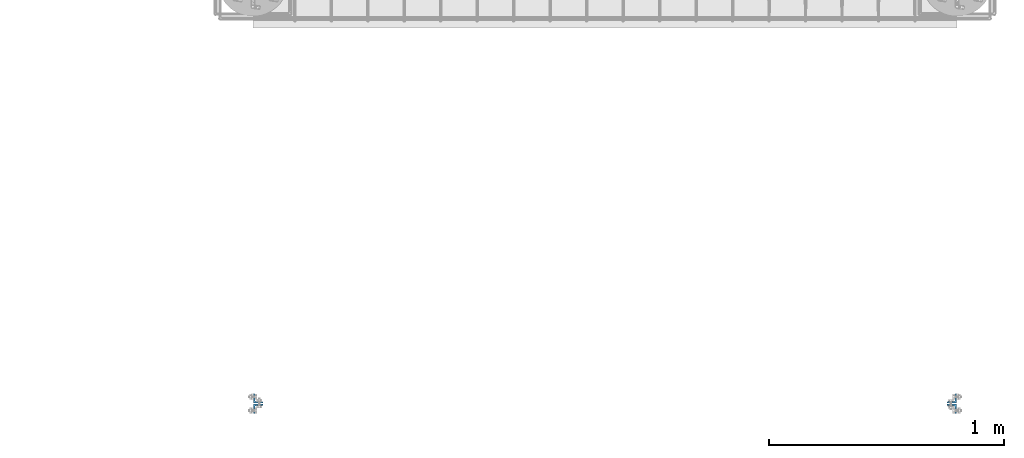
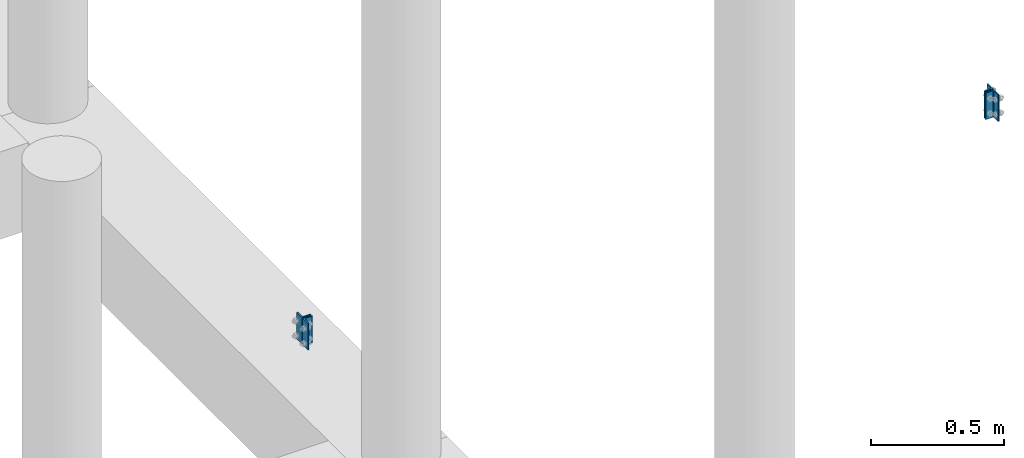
# One storey, part 2 of 20: 4 plates.
"""IFC4 building model written with IfcOpenShell, lengths in metres."""

from ifc_helpers import new_model, si_unit, frame, origin_with_axes, place, context, project, spatial, polyline, outline, extrude, type_object, element, save


model = new_model("IFC4")

# Units and contexts
model_context = context("Model", 3, precision=1e-05, world=origin_with_axes())
ifc_project = project(units=[si_unit("LENGTHUNIT", "METRE"), si_unit("AREAUNIT", "SQUARE_METRE"), si_unit("VOLUMEUNIT", "CUBIC_METRE"), si_unit("MASSUNIT", "GRAM", prefix="KILO"), si_unit("TIMEUNIT", "SECOND"), si_unit("PLANEANGLEUNIT", "RADIAN"), si_unit("SOLIDANGLEUNIT", "STERADIAN"), si_unit("THERMODYNAMICTEMPERATUREUNIT", "DEGREE_CELSIUS")], contexts=[model_context])

# Site, building, storey
placement_1 = place(None, origin_with_axes())
site = spatial("IfcSite", under=ifc_project, at=placement_1, Name="Italia", CompositionType="ELEMENT")
building = spatial("IfcBuilding", under=site, at=placement_1, Name="Tettoia", CompositionType="ELEMENT")
storey = spatial("IfcBuildingStorey", under=building, at=placement_1, Name="Storey 0", CompositionType="ELEMENT", Elevation=0.0)

# Plates
plate_type_1 = type_object("IfcPlateType", Name="Collegamento 0116_0117", PredefinedType="SHEET")
placement_2 = place(placement_1, origin_with_axes())
plate_1_placement = place(placement_2, origin_with_axes())
element("IfcPlate", 1, at=plate_1_placement, inside=storey, type_object=plate_type_1, Name="Collegamento 0116_0117", context=model_context, shape_type="SweptSolid", body=[
    extrude(outline(polyline([(0.0, 0.0), (0.00300001, 0.0), (0.00414805, -0.000227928), (0.00512132, -0.000878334), (0.00577164, -0.00185204), (0.006, -0.00300026), (0.006, -0.0279999), (0.00645672, -0.0302963), (0.00775737, -0.0322428), (0.0097039, -0.0335436), (0.012, -0.0340004), (0.037, -0.0340004), (0.0381481, -0.0342283), (0.0391213, -0.0348787), (0.0397716, -0.0358515), (0.04, -0.0369997), (0.04, -0.04), (0.0, -0.04), (0.0, 0.0)])), frame((8.3328, 0.2025, 4.361), z_axis=(0.0, 0.0, -1.0), x_axis=(0.0, 1.0, 0.0)), (0.0, 0.0, 1.0), 0.122),
])
plate_type_2 = type_object("IfcPlateType", Name="Collegamento 0116_0117", PredefinedType="SHEET")
plate_2_placement = place(placement_2, origin_with_axes())
element("IfcPlate", 2, at=plate_2_placement, inside=storey, type_object=plate_type_2, Name="Collegamento 0116_0117", context=model_context, shape_type="SweptSolid", body=[
    extrude(outline(polyline([(0.0, 0.0), (0.00022836, 0.00114822), (0.000878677, 0.00212097), (0.00185195, 0.00277138), (0.00300001, 0.00299931), (0.028, 0.00299931), (0.0302961, 0.00345612), (0.0322426, 0.00475693), (0.0335433, 0.00670338), (0.034, 0.00899982), (0.034, 0.0339994), (0.0342284, 0.0351477), (0.0348787, 0.0361214), (0.035852, 0.0367718), (0.037, 0.0369997), (0.04, 0.0369997), (0.04, -0.00300026), (0.0, -0.00300026), (0.0, 0.0)])), frame((8.2958, 0.1575, 4.361), z_axis=(0.0, 0.0, -1.0), x_axis=(0.0, 1.0, 0.0)), (0.0, 0.0, 1.0), 0.122),
])
plate_type_3 = type_object("IfcPlateType", Name="Collegamento 0117_0116", PredefinedType="SHEET")
plate_3_placement = place(placement_2, origin_with_axes())
element("IfcPlate", 3, at=plate_3_placement, inside=storey, type_object=plate_type_3, Name="Collegamento 0117_0116", context=model_context, shape_type="SweptSolid", body=[
    extrude(outline(polyline([(0.0, 0.0), (-0.00300001, 0.0), (-0.00414805, 0.000227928), (-0.00512132, 0.000878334), (-0.00577164, 0.00185204), (-0.006, 0.00300026), (-0.006, 0.0279999), (-0.00645672, 0.0302963), (-0.00775737, 0.0322428), (-0.0097039, 0.0335436), (-0.012, 0.0340004), (-0.037, 0.0340004), (-0.0381481, 0.0342283), (-0.0391213, 0.0348787), (-0.0397716, 0.0358515), (-0.04, 0.0369997), (-0.04, 0.04), (0.0, 0.04), (0.0, 0.0)])), frame((11.2472, 0.1975, 4.361), z_axis=(0.0, 0.0, -1.0), x_axis=(0.0, 1.0, 0.0)), (0.0, 0.0, 1.0), 0.122),
])
plate_type_4 = type_object("IfcPlateType", Name="Collegamento 0117_0116", PredefinedType="SHEET")
plate_4_placement = place(placement_2, origin_with_axes())
element("IfcPlate", 4, at=plate_4_placement, inside=storey, type_object=plate_type_4, Name="Collegamento 0117_0116", context=model_context, shape_type="SweptSolid", body=[
    extrude(outline(polyline([(0.0, 0.0), (-0.00022836, -0.00114822), (-0.000878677, -0.00212097), (-0.00185195, -0.00277138), (-0.00300001, -0.00299931), (-0.028, -0.00299931), (-0.0302961, -0.00345612), (-0.0322426, -0.00475693), (-0.0335433, -0.00670338), (-0.034, -0.00899982), (-0.034, -0.0339994), (-0.0342284, -0.0351477), (-0.0348787, -0.0361214), (-0.035852, -0.0367718), (-0.037, -0.0369997), (-0.04, -0.0369997), (-0.04, 0.00300026), (0.0, 0.00300026), (0.0, 0.0)])), frame((11.2842, 0.2425, 4.361), z_axis=(0.0, 0.0, -1.0), x_axis=(0.0, 1.0, 0.0)), (0.0, 0.0, 1.0), 0.122),
])

save(model, "model.ifc")
